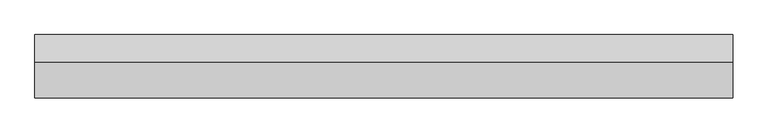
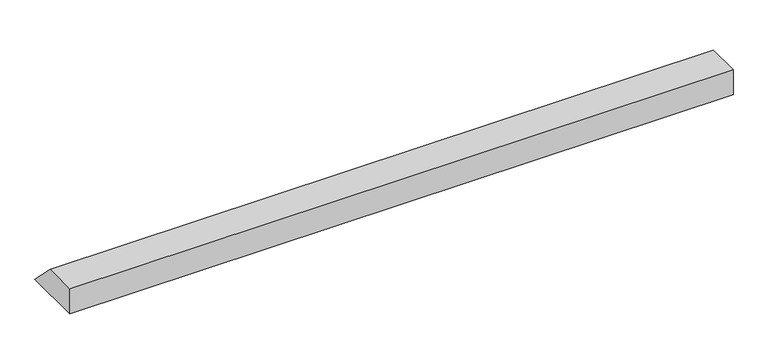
"""IFC4 building model written with IfcOpenShell, lengths in millimetres: proxy geometry, Gousset radier bord droit : Gousset radier bord droit."""

from ifc_helpers import new_model, si_unit, frame, origin, place, context, project, spatial, polyline, outline, extrude, source, transform, mapped, element, save


def generic_models_2f8197d4(model_context):
    return source(origin(), model_context, "Body", "SweptSolid", [
        extrude(outline(polyline([(0.0, 0.0), (0.0, 350.0), (450.0, 350.0), (800.0, 0.0), (0.0, 0.0)])), frame((0.0, 0.0, 0.0), z_axis=(1.0, 0.0, 0.0), x_axis=(0.0, 1.0, 0.0)), (0.0, 0.0, 1.0), 8785.0),
    ])


if __name__ == "__main__":
    model = new_model("IFC4")
    model_context = context("Model", 3, world=origin())
    ifc_project = project(units=[si_unit("LENGTHUNIT", "METRE", prefix="MILLI")], contexts=[model_context])
    site = spatial("IfcSite", under=ifc_project)
    building = spatial("IfcBuilding", under=site)
    placement = place(None, origin())
    generic_models_shape = generic_models_2f8197d4(model_context)
    element("IfcBuildingElementProxy", 1, Name="Gousset radier bord droit : Gousset radier bord droit", ObjectType="Gousset radier bord droit : Gousset radier bord droit", at=placement, inside=building, context=model_context, shape_type="MappedRepresentation", body=[
        mapped(generic_models_shape, transform((0.0, 0.0, 0.0), x_axis=(1.0, 0.0, 0.0), y_axis=(0.0, 1.0, 0.0), z_axis=(0.0, 0.0, 1.0))),
    ])
    save(model, "model.ifc")
